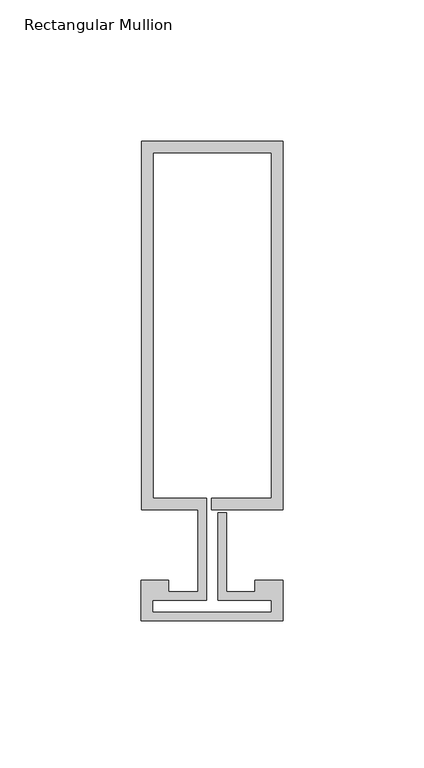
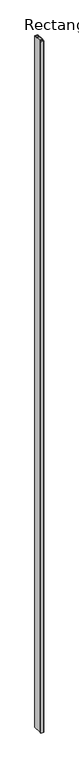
"""IFC4 building model written with IfcOpenShell, lengths in millimetres: member geometry, Rectangular Mullion : Reynaers_CW-50_Mullion-Transom_Horizontal_130.4mm_Facecap-02A."""

import ifcopenshell
import ifcopenshell.guid

model = None  # the IFC model being written
_history = None  # IfcOwnerHistory: only IFC2X3 demands one
_inside = {}  # id of a spatial element -> (the spatial element, [elements in it])
_under = {}  # id of a project, library or spatial element -> (it, [spatial elements below it])
_declared = {}  # id of a project -> (the project, [libraries it declares])
_typed = {}  # id of a type object -> (the type object, [elements of that type])
_made_of = {}  # id of a material, layer set ... -> (it, [elements and type objects made of it])


def new_model(schema):
    """Start an empty IFC model of exactly this schema.

    Asked for "IFC4X3", IfcOpenShell would pick the latest addendum, in which some entities
    have other attributes; the version numbers below select the first issue.
    IFC2X3 requires an IfcOwnerHistory on every rooted entity: one is made here for all.
    """
    global model, _history
    if schema == "IFC4X3":
        model = ifcopenshell.file(schema_version=(4, 3, 0, 0))
    else:
        model = ifcopenshell.file(schema=schema)
    _inside.clear()
    _under.clear()
    _declared.clear()
    _typed.clear()
    _made_of.clear()
    _history = None
    if model.schema == "IFC2X3":
        org = make("IfcOrganization", Name="unknown")
        user = make(
            "IfcPersonAndOrganization",
            ThePerson=make("IfcPerson", FamilyName="unknown"),
            TheOrganization=org,
        )
        app = make(
            "IfcApplication",
            ApplicationDeveloper=org,
            Version="unknown",
            ApplicationFullName="unknown",
            ApplicationIdentifier="unknown",
        )
        _history = make(
            "IfcOwnerHistory",
            OwningUser=user,
            OwningApplication=app,
            ChangeAction="ADDED",
            CreationDate=0,
        )
    return model


def make(cls, **values):
    """One entity of the class cls with the attributes given. An attribute that is None is left unset."""
    return model.create_entity(
        cls, **{name: value for name, value in values.items() if value is not None}
    )


def rooted(cls, **values):
    """An entity with a GlobalId (a new one), such as an element, a storey or a relation."""
    return make(cls, GlobalId=ifcopenshell.guid.new(), OwnerHistory=_history, **values)


def si_unit(unit_type, name, prefix=None):
    """IfcSIUnit, for example si_unit("LENGTHUNIT", "METRE", prefix="MILLI")."""
    return make("IfcSIUnit", UnitType=unit_type, Prefix=prefix, Name=name)


def assignment(units):
    """IfcUnitAssignment: the units of a project."""
    return None if units is None else make("IfcUnitAssignment", Units=units)


def point(xyz):
    """IfcCartesianPoint."""
    return None if xyz is None else make("IfcCartesianPoint", Coordinates=xyz)


def direction(xyz):
    """IfcDirection."""
    return None if xyz is None else make("IfcDirection", DirectionRatios=xyz)


def frame(location, z_axis=None, x_axis=None):
    """IfcAxis2Placement3D, a coordinate frame: its origin and axes. An axis left out is left unset."""
    return make(
        "IfcAxis2Placement3D",
        Location=point(location),
        Axis=direction(z_axis),
        RefDirection=direction(x_axis),
    )


def origin():
    """The frame at (0, 0, 0) with its axes left unset."""
    return frame((0.0, 0.0, 0.0))


def place(relative_to, where):
    """IfcLocalPlacement: puts the frame where relative to a parent placement (None: the world)."""
    return make(
        "IfcLocalPlacement", PlacementRelTo=relative_to, RelativePlacement=where
    )


def context(
    kind, dimensions, precision=None, world=None, true_north=None, identifier=None
):
    """IfcGeometricRepresentationContext, for example the 3D "Model" context."""
    return make(
        "IfcGeometricRepresentationContext",
        ContextIdentifier=identifier,
        ContextType=kind,
        CoordinateSpaceDimension=dimensions,
        Precision=precision,
        WorldCoordinateSystem=world,
        TrueNorth=true_north,
    )


def project(units=None, contexts=None):
    """IfcProject with its units and contexts."""
    return rooted(
        "IfcProject",
        Name="project",
        RepresentationContexts=contexts,
        UnitsInContext=assignment(units),
    )


def spatial(cls, under=None, at=None, **own):
    """A site, building, storey or space (cls), placed at a placement, below another one or the project."""
    s = rooted(cls, ObjectPlacement=at, **own)
    if under is not None:
        _under.setdefault(under.id(), (under, []))[1].append(s)
    return s


def polyline(points):
    """IfcPolyline through the points."""
    return make("IfcPolyline", Points=[point(p) for p in points])


def outline(outer, holes=None, kind="AREA"):
    """IfcArbitraryClosedProfileDef: a profile drawn as a closed curve; with holes, ...WithVoids."""
    if holes is None:
        return make("IfcArbitraryClosedProfileDef", ProfileType=kind, OuterCurve=outer)
    return make(
        "IfcArbitraryProfileDefWithVoids",
        ProfileType=kind,
        OuterCurve=outer,
        InnerCurves=holes,
    )


def extrude(swept, where, along, depth):
    """IfcExtrudedAreaSolid: the profile swept, set in the frame where, extruded along a direction by depth."""
    return make(
        "IfcExtrudedAreaSolid",
        SweptArea=swept,
        Position=where,
        ExtrudedDirection=direction(along),
        Depth=depth,
    )


def shape(context_of_items, identifier, shape_type, items):
    """IfcShapeRepresentation: the items that make up one representation, for example the "Body"."""
    return make(
        "IfcShapeRepresentation",
        ContextOfItems=context_of_items,
        RepresentationIdentifier=identifier,
        RepresentationType=shape_type,
        Items=items,
    )


def source(mapping_origin, context_of_items, identifier, shape_type, items):
    """IfcRepresentationMap: a shape defined once, which mapped items show again and again."""
    return make(
        "IfcRepresentationMap",
        MappingOrigin=mapping_origin,
        MappedRepresentation=shape(context_of_items, identifier, shape_type, items),
    )


def transform(
    local_origin,
    x_axis=None,
    y_axis=None,
    z_axis=None,
    scale=None,
    scale2=None,
    scale3=None,
    uniform=True,
):
    """IfcCartesianTransformationOperator3D, or its non-uniform kind. x_axis, y_axis, z_axis: its Axis1, 2, 3."""
    if uniform:
        return make(
            "IfcCartesianTransformationOperator3D",
            Axis1=direction(x_axis),
            Axis2=direction(y_axis),
            LocalOrigin=point(local_origin),
            Scale=scale,
            Axis3=direction(z_axis),
        )
    return make(
        "IfcCartesianTransformationOperator3DnonUniform",
        Axis1=direction(x_axis),
        Axis2=direction(y_axis),
        LocalOrigin=point(local_origin),
        Scale=scale,
        Axis3=direction(z_axis),
        Scale2=scale2,
        Scale3=scale3,
    )


def mapped(mapping_source, mapping_target):
    """IfcMappedItem: shows the shape of a source again, moved by a transform."""
    return make(
        "IfcMappedItem", MappingSource=mapping_source, MappingTarget=mapping_target
    )


def made_of(thing, what):
    """Note that an element or type object is made of a material, layer set ...; save() writes the relation."""
    if what is not None:
        _made_of.setdefault(what.id(), (what, []))[1].append(thing)
    return thing


def element(
    cls,
    number,
    at=None,
    inside=None,
    cuts=None,
    type_object=None,
    material=None,
    context=None,
    identifier="Body",
    shape_type=None,
    held_by="IfcProductDefinitionShape",
    body=None,
    shapes=None,
    **own,
):
    """One element of the class cls, such as IfcWall. Its Tag is "e" and its number.

    at: its placement. inside: the storey or other place that contains it. cuts: it is an
    opening in that element (IfcRelVoidsElement). A single representation is given by context,
    identifier, shape_type and body (its items); several are given by shapes. held_by: the class
    of the entity that holds the representations. save() writes the other relations.
    """
    e = rooted(cls, Tag="e%d" % number, ObjectPlacement=at, **own)
    if body is not None:
        shapes = [shape(context, identifier, shape_type, body)]
    if shapes is not None:
        e.Representation = make(held_by, Representations=shapes)
    if inside is not None:
        _inside.setdefault(inside.id(), (inside, []))[1].append(e)
    if cuts is not None:
        rooted(
            "IfcRelVoidsElement", RelatingBuildingElement=cuts, RelatedOpeningElement=e
        )
    if type_object is not None:
        _typed.setdefault(type_object.id(), (type_object, []))[1].append(e)
    return made_of(e, material)


def aggregate(whole, parts):
    """IfcRelAggregates: a whole, such as a stair, and the parts it consists of."""
    return rooted("IfcRelAggregates", RelatingObject=whole, RelatedObjects=parts)


def save(model, path):
    """Write the relations noted so far, then the file.

    IfcRelAggregates (storeys below a building ...), IfcRelContainedInSpatialStructure (elements
    in a storey), IfcRelDefinesByType, IfcRelAssociatesMaterial and IfcRelDeclares: one each for
    every whole, place, type object, material and project.
    """
    for whole, parts in _under.values():
        aggregate(whole, parts)
    for where, things in _inside.values():
        rooted(
            "IfcRelContainedInSpatialStructure",
            RelatedElements=things,
            RelatingStructure=where,
        )
    for kind, things in _typed.values():
        rooted("IfcRelDefinesByType", RelatedObjects=things, RelatingType=kind)
    for what, things in _made_of.values():
        rooted("IfcRelAssociatesMaterial", RelatedObjects=things, RelatingMaterial=what)
    for by, libraries in _declared.values():
        rooted("IfcRelDeclares", RelatingContext=by, RelatedDefinitions=libraries)
    model.write(path)


def rectangular_mullion_a6785b0c(model_context):
    return source(origin(), model_context, "Body", "SweptSolid", [
        extrude(outline(polyline([(-24.8004059, 142.9), (25.1995941, 142.9), (25.1995941, 12.5), (0.0, 12.5), (0.0, 16.5), (21.1995941, 16.5), (21.1995941, 138.9), (-20.8004059, 138.9), (-20.8004059, 16.5), (-1.9004059, 16.5), (-1.9004059, -19.5), (-20.994845, -19.5), (-20.994845, -23.7191338), (21.1995941, -23.7191338), (21.1995941, -19.5), (2.2995941, -19.5), (2.2995941, 11.5), (5.2995941, 11.5), (5.2995941, -16.5), (15.2996495, -16.5), (15.2996495, -12.5), (25.1995941, -12.5), (25.1995941, -26.8), (-24.994845, -26.8), (-24.994845, -12.5), (-15.2996495, -12.5), (-15.2996495, -16.5), (-4.9004059, -16.5), (-4.9004059, 12.5), (-24.8004059, 12.5), (-24.8004059, 142.9)])), frame((0.0, 0.0, -12000.0), z_axis=(0.0, 0.0, 1.0), x_axis=(1.0, 0.0, 0.0)), (0.0, 0.0, 1.0), 12000.0),
    ])


if __name__ == "__main__":
    model = new_model("IFC4")
    model_context = context("Model", 3, world=origin())
    ifc_project = project(units=[si_unit("LENGTHUNIT", "METRE", prefix="MILLI")], contexts=[model_context])
    site = spatial("IfcSite", under=ifc_project)
    building = spatial("IfcBuilding", under=site)
    placement = place(None, origin())
    rectangular_mullion_shape = rectangular_mullion_a6785b0c(model_context)
    element("IfcMember", 1, ObjectType="Rectangular Mullion : Reynaers_CW-50_Mullion-Transom_Horizontal_130.4mm_Facecap-02A", at=placement, inside=building, context=model_context, shape_type="MappedRepresentation", body=[
        mapped(rectangular_mullion_shape, transform((0.0, 0.0, 0.0), x_axis=(1.0, 0.0, 0.0), y_axis=(0.0, 1.0, 0.0), z_axis=(0.0, 0.0, 1.0))),
    ])
    save(model, "model.ifc")
